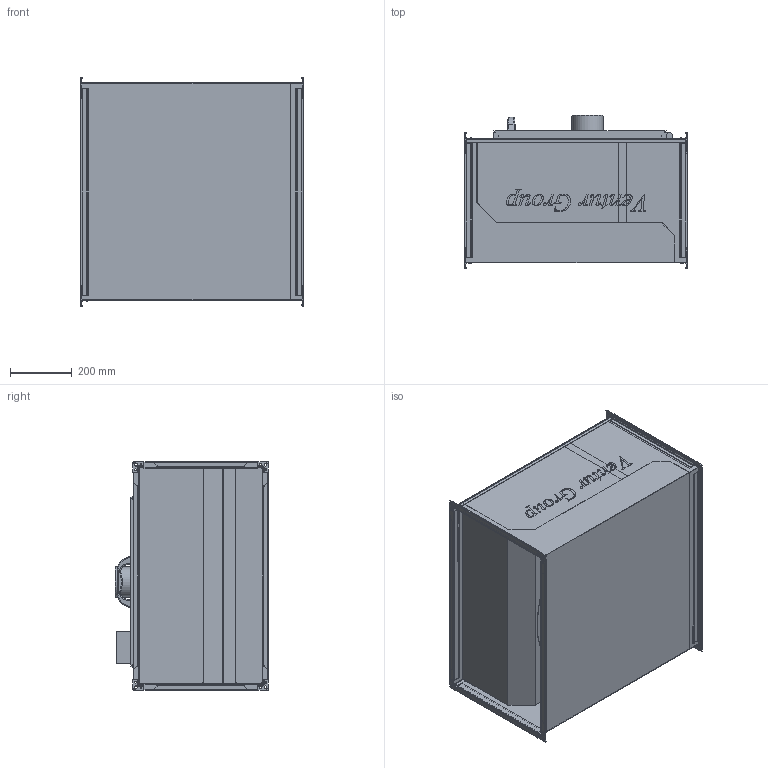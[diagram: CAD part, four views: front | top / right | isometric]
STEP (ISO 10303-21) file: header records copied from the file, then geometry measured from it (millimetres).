
FILE_DESCRIPTION(/* description */ (''),/* implementation_level */ '2;1');
FILE_NAME(/* name */ 'C:\Users\M.Janczarek\Documents\Modele uproszczone\IBF\IBF4_450T 41010160-01\IBF4_450T 41010160-01\IBF4_450T 41010160-01.stp',/* time_stamp */ '2018-03-23T16:15:29+01:00',/* author */ ('M.Janczarek'),/* organization */ (''),/* preprocessor_version */ 'ST-DEVELOPER v16.5',/* originating_system */ 'Autodesk Inventor 2017',/* authorisation */ '');
FILE_SCHEMA (('AUTOMOTIVE_DESIGN { 1 0 10303 214 3 1 1 }'));
Products named in the file (1): IBF4_450T 41010160-01
Bounding box: 723.6 x 496.49 x 741.97 mm (x, y, z)
Volume: 40961812.5 mm3; surface area: 6615529.3 mm2
Topology: 1 solids, 1 shells, 1756 faces, 5065 edges, 3255 vertices
Faces by surface type: plane 864, cylinder 483, bspline 303, torus 64, cone 26, sphere 16
Full cylindrical faces by diameter (mm): 6 x16, 9 x8, 99.609 x2, 280 x1, 455 x1
Entity records: 63065 total; most frequent: CARTESIAN_POINT 16637, ORIENTED_EDGE 10058, DIRECTION 8509, EDGE_CURVE 5029, VERTEX_POINT 3263, LINE 3257, VECTOR 3257, AXIS2_PLACEMENT_3D 2626
